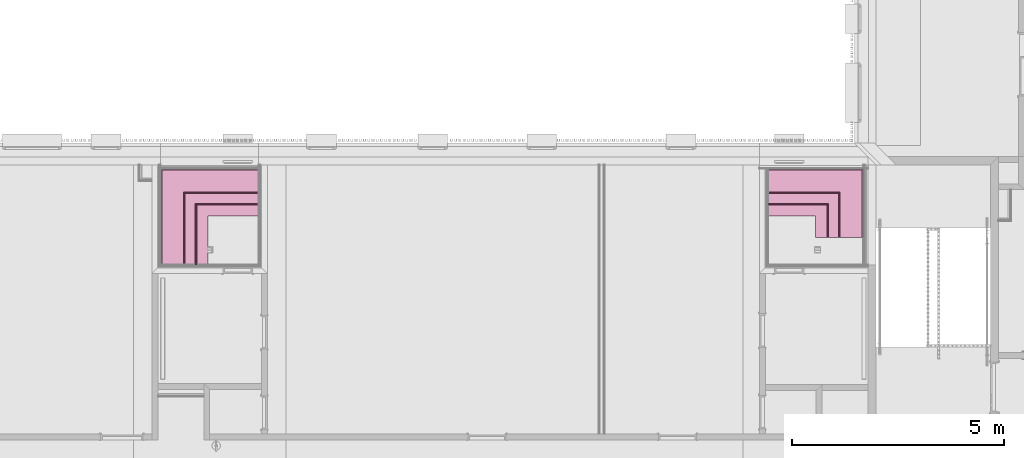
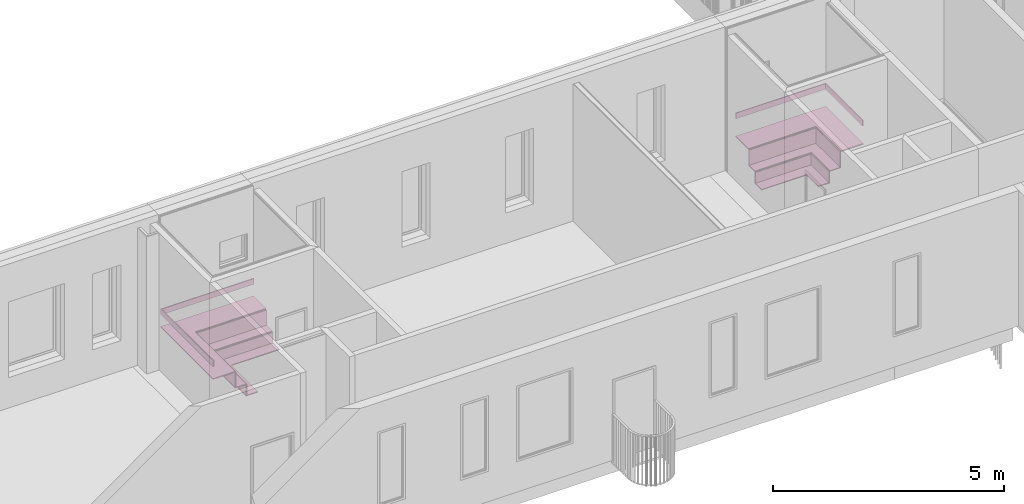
# One storey, part 71 of 100: 18 furnishings.
"""IFC2X3 building model written with IfcOpenShell, lengths in millimetres."""

from ifc_helpers import new_model, entity, si_unit, converted_unit, derived_unit, money_unit, direction, frame, origin_with_axes, place, context, subcontext, project, spatial, polyline, outline, extrude, material, type_object, element, save


model = new_model("IFC2X3")

# Units and contexts
model_context = context("Model", 3, precision=0.01, world=origin_with_axes(), true_north=direction((0.0, 1.0)))
body_context = subcontext(model_context, "Body", "Model", "MODEL_VIEW")
ifc_project = project(units=[si_unit("LENGTHUNIT", "METRE", prefix="MILLI"), si_unit("AREAUNIT", "SQUARE_METRE"), si_unit("VOLUMEUNIT", "CUBIC_METRE"), converted_unit("PLANEANGLEUNIT", "DEGREE", entity("IfcPlaneAngleMeasure", 0.0174532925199), si_unit("PLANEANGLEUNIT", "RADIAN"), dimensions=[0, 0, 0, 0, 0, 0, 0]), si_unit("SOLIDANGLEUNIT", "STERADIAN"), money_unit("EUR"), converted_unit("TIMEUNIT", "Year", entity("IfcTimeMeasure", 31556926.0), si_unit("TIMEUNIT", "SECOND"), dimensions=[0, 0, 1, 0, 0, 0, 0]), si_unit("MASSUNIT", "GRAM", prefix="KILO"), si_unit("THERMODYNAMICTEMPERATUREUNIT", "DEGREE_CELSIUS"), si_unit("LUMINOUSINTENSITYUNIT", "LUMEN"), si_unit("ENERGYUNIT", "JOULE", prefix="MEGA"), derived_unit("THERMALCONDUCTANCEUNIT", [(si_unit("POWERUNIT", "WATT"), 1), (si_unit("LENGTHUNIT", "METRE"), -1), (si_unit("THERMODYNAMICTEMPERATUREUNIT", "KELVIN"), -1)]), derived_unit("SPECIFICHEATCAPACITYUNIT", [(si_unit("ENERGYUNIT", "JOULE"), 1), (si_unit("MASSUNIT", "GRAM", prefix="KILO"), -1), (si_unit("THERMODYNAMICTEMPERATUREUNIT", "KELVIN"), -1)]), derived_unit("MASSDENSITYUNIT", [(si_unit("MASSUNIT", "GRAM", prefix="KILO"), 1), (si_unit("VOLUMEUNIT", "CUBIC_METRE"), -1)])], contexts=[model_context])

# Site, building, storey
site_placement = place(None, origin_with_axes())
site = spatial("IfcSite", under=ifc_project, at=site_placement, Name="Politse- ja Piirivalveameti ning Päästeameti ühishoone", CompositionType="ELEMENT")
building_placement = place(site_placement, origin_with_axes())
building = spatial("IfcBuilding", under=site, at=building_placement, Name="Politse- ja Piirivalveameti ning Päästeameti ühishoone", CompositionType="ELEMENT")
storey_placement = place(building_placement, frame((0.0, 0.0, 3800.0), z_axis=(0.0, 0.0, 1.0), x_axis=(1.0, 0.0, 0.0)))
storey = spatial("IfcBuildingStorey", under=building, at=storey_placement, Name="Teine korrus", CompositionType="ELEMENT", Elevation=3800.0)

# Furnishings
ifc_material_1 = material(Name="SKR-05_Vineer")
furniture_type_1 = type_object("IfcFurnitureType", Name="SKR-05_Vineer 25", AssemblyPlace="NOTDEFINED")
furnishing_1_placement = place(storey_placement, frame((57605.5039024, 20904.9534812, 1370.0), z_axis=(0.0, 0.0, 1.0), x_axis=(1.0, 3.59364043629e-08, 0.0)))
element("IfcFurnishingElement", 1, at=furnishing_1_placement, inside=storey, type_object=furniture_type_1, material=ifc_material_1, Name="Saunalava", context=body_context, shape_type="SweptSolid", body=[
    extrude(outline(polyline([(0.0, -25.0), (2253.04800856, -25.0), (2253.04800946, 0.0), (0.0, 0.0), (0.0, -25.0)])), origin_with_axes(), (0.0, 0.0, 1.0), 150.0),
])
furnishing_2_placement = place(storey_placement, frame((59858.5519118, 20904.9535622, 1370.0), z_axis=(0.0, 0.0, 1.0), x_axis=(0.0, -1.0, 0.0)))
element("IfcFurnishingElement", 2, at=furnishing_2_placement, inside=storey, type_object=furniture_type_1, material=ifc_material_1, Name="Saunalava", context=body_context, shape_type="SweptSolid", body=[
    extrude(outline(polyline([(0.0, -25.0), (1623.00008097, -25.0), (1623.00008097, 0.0), (0.0, 0.0), (0.0, -25.0)])), origin_with_axes(), (0.0, 0.0, 1.0), 150.0),
])
furnishing_3_placement = place(storey_placement, frame((43248.4114692, 20904.9530301, 1220.0), z_axis=(0.0, 0.0, 1.0), x_axis=(1.0, 3.59364051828e-08, 0.0)))
element("IfcFurnishingElement", 3, at=furnishing_3_placement, inside=storey, type_object=furniture_type_1, material=ifc_material_1, Name="Saunalava", context=body_context, shape_type="SweptSolid", body=[
    extrude(outline(polyline([(-4.49212222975e-07, -25.0), (2319.9999991, -25.0), (2320.0, 0.0), (0.0, 0.0), (-4.49212222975e-07, -25.0)])), origin_with_axes(), (0.0, 0.0, 1.0), 150.0),
])
furnishing_4_placement = place(storey_placement, frame((43248.4114692, 18430.0421528, 1220.0), z_axis=(0.0, 0.0, 1.0), x_axis=(0.0, 1.0, 0.0)))
element("IfcFurnishingElement", 4, at=furnishing_4_placement, inside=storey, type_object=furniture_type_1, material=ifc_material_1, Name="Saunalava", context=body_context, shape_type="SweptSolid", body=[
    extrude(outline(polyline([(205.0, -25.0), (2474.9108435, -25.0), (2474.91085333, 0.0), (205.0, 0.0), (205.0, -25.0)])), origin_with_axes(), (0.0, 0.0, 1.0), 150.0),
])
furnishing_5_placement = place(storey_placement, frame((59298.5039024, 20354.9534812, 475.0), z_axis=(0.0, 0.0, 1.0), x_axis=(0.0, -1.0, 0.0)))
element("IfcFurnishingElement", 5, at=furnishing_5_placement, inside=storey, type_object=furniture_type_1, material=ifc_material_1, Name="Saunalava", context=body_context, shape_type="SweptSolid", body=[
    extrude(outline(polyline([(25.0, -25.0), (1073.0, -25.0), (1073.0, 0.0), (0.0, 0.0), (25.0, -25.0)])), origin_with_axes(), (0.0, 0.0, 1.0), 400.0),
])
furnishing_6_placement = place(storey_placement, frame((43798.4114692, 18430.0421528, 475.0), z_axis=(0.0, 0.0, 1.0), x_axis=(0.0, 1.0, 0.0)))
element("IfcFurnishingElement", 6, at=furnishing_6_placement, inside=storey, type_object=furniture_type_1, material=ifc_material_1, Name="Saunalava", context=body_context, shape_type="SweptSolid", body=[
    extrude(outline(polyline([(205.0, -25.0), (1899.91096064, -25.0), (1924.91096064, 0.0), (205.0, 0.0), (205.0, -25.0)])), origin_with_axes(), (0.0, 0.0, 1.0), 400.0),
])
furnishing_7_placement = place(storey_placement, frame((43798.4114692, 20354.9531134, 475.0), z_axis=(0.0, 0.0, 1.0), x_axis=(1.0, 0.0, 0.0)))
element("IfcFurnishingElement", 7, at=furnishing_7_placement, inside=storey, type_object=furniture_type_1, material=ifc_material_1, Name="Saunalava", context=body_context, shape_type="SweptSolid", body=[
    extrude(outline(polyline([(25.0, -25.0), (1770.0, -25.0), (1770.0, 0.0), (0.0, 0.0), (25.0, -25.0)])), origin_with_axes(), (0.0, 0.0, 1.0), 400.0),
])
furnishing_8_placement = place(storey_placement, frame((44073.4114692, 18430.0421528, 170.0), z_axis=(0.0, 0.0, 1.0), x_axis=(0.0, 1.0, 0.0)))
element("IfcFurnishingElement", 8, at=furnishing_8_placement, inside=storey, type_object=furniture_type_1, material=ifc_material_1, Name="Saunalava", context=body_context, shape_type="SweptSolid", body=[
    extrude(outline(polyline([(205.0, -25.0), (1625.0, -25.0), (1650.0, 0.0), (205.0, 0.0), (205.0, -25.0)])), origin_with_axes(), (0.0, 0.0, 1.0), 280.0),
])
furnishing_9_placement = place(storey_placement, frame((44073.4114692, 20080.0421528, 170.0), z_axis=(0.0, 0.0, 1.0), x_axis=(1.0, 0.0, 0.0)))
element("IfcFurnishingElement", 9, at=furnishing_9_placement, inside=storey, type_object=furniture_type_1, material=ifc_material_1, Name="Saunalava", context=body_context, shape_type="SweptSolid", body=[
    extrude(outline(polyline([(25.0, -25.0), (1495.0, -25.0), (1495.0, 0.0), (0.0, 0.0), (25.0, -25.0)])), origin_with_axes(), (0.0, 0.0, 1.0), 280.0),
])
furnishing_10_placement = place(storey_placement, frame((57400.535105, 20079.9534743, 170.0), z_axis=(0.0, 0.0, 1.0), x_axis=(1.0, 0.0, 0.0)))
element("IfcFurnishingElement", 10, at=furnishing_10_placement, inside=storey, type_object=furniture_type_1, material=ifc_material_1, Name="Saunalava", context=body_context, shape_type="SweptSolid", body=[
    extrude(outline(polyline([(205.000945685, -25.0), (1597.96878764, -25.0), (1622.96878764, 0.0), (205.000000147, 0.0), (205.000945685, -25.0)])), origin_with_axes(), (0.0, 0.0, 1.0), 280.0),
])
furnishing_11_placement = place(storey_placement, frame((59023.5038926, 20079.9534743, 170.0), z_axis=(0.0, 0.0, 1.0), x_axis=(0.0, -1.0, 0.0)))
element("IfcFurnishingElement", 11, at=furnishing_11_placement, inside=storey, type_object=furniture_type_1, material=ifc_material_1, Name="Saunalava", context=body_context, shape_type="SweptSolid", body=[
    extrude(outline(polyline([(25.0, -25.0), (797.999993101, -25.0), (797.999993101, 0.0), (0.0, 0.0), (25.0, -25.0)])), origin_with_axes(), (0.0, 0.0, 1.0), 280.0),
])
furnishing_12_placement = place(storey_placement, frame((57400.5247041, 20354.9534812, 475.0), z_axis=(0.0, 0.0, 1.0), x_axis=(1.0, 0.0, 0.0)))
element("IfcFurnishingElement", 12, at=furnishing_12_placement, inside=storey, type_object=furniture_type_1, material=ifc_material_1, Name="Saunalava", context=body_context, shape_type="SweptSolid", body=[
    extrude(outline(polyline([(205.000945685, -25.0), (1872.9791983, -25.0), (1897.9791983, 0.0), (205.000000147, 0.0), (205.000945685, -25.0)])), origin_with_axes(), (0.0, 0.0, 1.0), 400.0),
])
ifc_material_2 = material(Name="Puit - Põrand")
furniture_type_2 = type_object("IfcFurnitureType", Name="Puit - Põrand 25", AssemblyPlace="NOTDEFINED")
furnishing_13_placement = place(storey_placement, frame((43248.4114692, 18635.0421528, 900.0), z_axis=(0.0, 0.0, 1.0), x_axis=(1.0, 0.0, 0.0)))
element("IfcFurnishingElement", 13, at=furnishing_13_placement, inside=storey, type_object=furniture_type_2, material=ifc_material_2, Name="saunalava", context=body_context, shape_type="SweptSolid", body=[
    extrude(outline(polyline([(0.0, 0.0), (550.0, 0.0), (550.0, 1719.91096064), (2320.0, 1719.91096064), (2320.0, 2269.91096064), (0.0, 2269.91087727), (0.0, 0.0)])), frame((0.0, 0.0, -25.0), z_axis=(0.0, 0.0, 1.0), x_axis=(1.0, 0.0, 0.0)), (0.0, 0.0, 1.0), 25.0),
])
furnishing_14_placement = place(storey_placement, frame((43798.4114692, 18635.0421528, 475.0), z_axis=(0.0, 0.0, 1.0), x_axis=(1.0, 0.0, 0.0)))
element("IfcFurnishingElement", 14, at=furnishing_14_placement, inside=storey, type_object=furniture_type_2, material=ifc_material_2, Name="saunalava", context=body_context, shape_type="SweptSolid", body=[
    extrude(outline(polyline([(0.0, 0.0), (275.0, 0.0), (275.0, 1445.0), (1770.0, 1445.0), (1770.0, 1719.91096064), (0.0, 1719.91096064), (0.0, 0.0)])), frame((0.0, 0.0, -25.0), z_axis=(0.0, 0.0, 1.0), x_axis=(1.0, 0.0, 0.0)), (0.0, 0.0, 1.0), 25.0),
])
furnishing_15_placement = place(storey_placement, frame((44073.4114692, 18635.0421528, 170.0), z_axis=(0.0, 0.0, 1.0), x_axis=(1.0, 0.0, 0.0)))
element("IfcFurnishingElement", 15, at=furnishing_15_placement, inside=storey, type_object=furniture_type_2, material=ifc_material_2, Name="saunalava", context=body_context, shape_type="SweptSolid", body=[
    extrude(outline(polyline([(0.0, 0.0), (295.0, 0.0), (295.0, 1150.0), (1495.0, 1150.0), (1495.0, 1445.0), (0.0, 1445.0), (0.0, 0.0)])), frame((0.0, 0.0, -25.0), z_axis=(0.0, 0.0, 1.0), x_axis=(1.0, 0.0, 0.0)), (0.0, 0.0, 1.0), 25.0),
])
furnishing_16_placement = place(storey_placement, frame((57605.5039024, 20904.9534812, 900.0), z_axis=(0.0, 0.0, 1.0), x_axis=(1.0, 0.0, 0.0)))
element("IfcFurnishingElement", 16, at=furnishing_16_placement, inside=storey, type_object=furniture_type_2, material=ifc_material_2, Name="saunalava", context=body_context, shape_type="SweptSolid", body=[
    extrude(outline(polyline([(0.0, 0.0), (0.0, -550.0), (1693.0, -550.0), (1693.0, -1623.0), (2253.04800946, -1623.0), (2253.04800946, 8.09664442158e-05), (0.0, 0.0)])), frame((0.0, 0.0, -25.0), z_axis=(0.0, 0.0, 1.0), x_axis=(1.0, 0.0, 0.0)), (0.0, 0.0, 1.0), 25.0),
])
furnishing_17_placement = place(storey_placement, frame((57605.5039024, 20354.9534812, 475.0), z_axis=(0.0, 0.0, 1.0), x_axis=(1.0, 0.0, 0.0)))
element("IfcFurnishingElement", 17, at=furnishing_17_placement, inside=storey, type_object=furniture_type_2, material=ifc_material_2, Name="saunalava", context=body_context, shape_type="SweptSolid", body=[
    extrude(outline(polyline([(0.0, 0.0), (0.0, -275.000006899), (1417.99999027, -275.000006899), (1417.99999027, -1073.0), (1693.0, -1073.0), (1693.0, 0.0), (0.0, 0.0)])), frame((0.0, 0.0, -25.0), z_axis=(0.0, 0.0, 1.0), x_axis=(1.0, 0.0, 0.0)), (0.0, 0.0, 1.0), 25.0),
])
furnishing_18_placement = place(storey_placement, frame((57605.5039024, 20079.9534743, 170.0), z_axis=(0.0, 0.0, 1.0), x_axis=(1.0, 0.0, 0.0)))
element("IfcFurnishingElement", 18, at=furnishing_18_placement, inside=storey, type_object=furniture_type_2, material=ifc_material_2, Name="saunalava", context=body_context, shape_type="SweptSolid", body=[
    extrude(outline(polyline([(0.0, 0.0), (0.0, -295.0), (1123.0, -295.0), (1123.0, -797.999993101), (1417.99999027, -797.999993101), (1417.99999027, 0.0), (0.0, 0.0)])), frame((0.0, 0.0, -25.0), z_axis=(0.0, 0.0, 1.0), x_axis=(1.0, 0.0, 0.0)), (0.0, 0.0, 1.0), 25.0),
])

save(model, "model.ifc")
